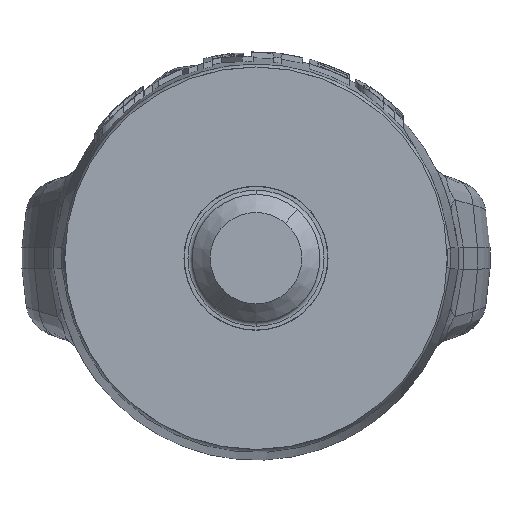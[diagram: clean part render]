
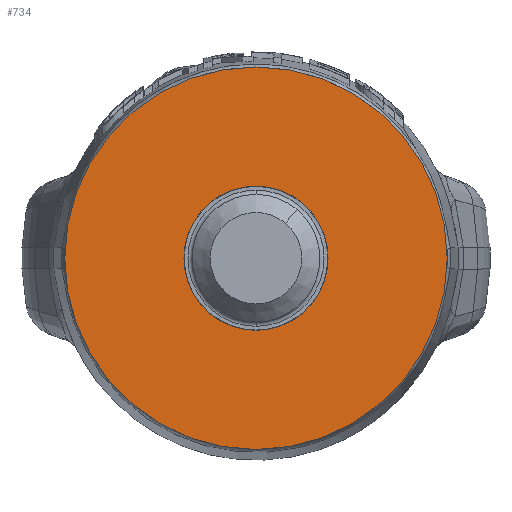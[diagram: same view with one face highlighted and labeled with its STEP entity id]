
A CAD part, front view. The second image highlights one B-rep face of the part: STEP entity #734.
In plain terms, the highlighted planar face has unit normal (0, -1, 0).
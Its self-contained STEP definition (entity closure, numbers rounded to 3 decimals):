
#734=ADVANCED_FACE('',(#1461,#1462),#1463,.F.);
#1461=FACE_OUTER_BOUND('',#7029,.T.);
#1462=FACE_BOUND('',#7030,.T.);
#1463=PLANE('',#7031);
#7029=EDGE_LOOP('',(#8860,#8861));
#7030=EDGE_LOOP('',(#8862,#8863));
#7031=AXIS2_PLACEMENT_3D('',#8864,#8865,#8866);
#8860=ORIENTED_EDGE('',*,*,#9725,.T.);
#8861=ORIENTED_EDGE('',*,*,#9715,.T.);
#8862=ORIENTED_EDGE('',*,*,#9718,.T.);
#8863=ORIENTED_EDGE('',*,*,#9723,.T.);
#8864=CARTESIAN_POINT('',(0.,-57.5,0.));
#8865=DIRECTION('',(0.0,1.0,0.0));
#8866=DIRECTION('',(1.0,0.0,-0.0));
#9715=EDGE_CURVE('',#10982,#10986,#10988,.T.);
#9718=EDGE_CURVE('',#10993,#10990,#10994,.T.);
#9723=EDGE_CURVE('',#10990,#10993,#11000,.T.);
#9725=EDGE_CURVE('',#10986,#10982,#11002,.T.);
#10982=VERTEX_POINT('',#18344);
#10986=VERTEX_POINT('',#18349);
#10988=CIRCLE('',#18352,35.959);
#10990=VERTEX_POINT('',#18354);
#10993=VERTEX_POINT('',#18358);
#10994=CIRCLE('',#18359,13.554);
#11000=CIRCLE('',#18366,13.554);
#11002=CIRCLE('',#18368,35.959);
#18344=CARTESIAN_POINT('',(-35.959,-57.5,0.));
#18349=CARTESIAN_POINT('',(35.959,-57.5,0.));
#18352=AXIS2_PLACEMENT_3D('',#19034,#19035,#19036);
#18354=CARTESIAN_POINT('',(-13.554,-57.5,0.));
#18358=CARTESIAN_POINT('',(13.554,-57.5,0.));
#18359=AXIS2_PLACEMENT_3D('',#19038,#19039,#19040);
#18366=AXIS2_PLACEMENT_3D('',#19048,#19049,#19050);
#18368=AXIS2_PLACEMENT_3D('',#19051,#19052,#19053);
#19034=CARTESIAN_POINT('',(0.0,-57.5,0.0));
#19035=DIRECTION('',(0.0,-1.0,-0.0));
#19036=DIRECTION('',(-1.0,0.0,0.));
#19038=CARTESIAN_POINT('',(0.0,-57.5,0.0));
#19039=DIRECTION('',(0.0,1.0,0.0));
#19040=DIRECTION('',(-1.0,0.0,0.));
#19048=CARTESIAN_POINT('',(0.0,-57.5,0.0));
#19049=DIRECTION('',(0.0,1.0,0.0));
#19050=DIRECTION('',(-1.0,0.0,0.));
#19051=CARTESIAN_POINT('',(0.0,-57.5,0.0));
#19052=DIRECTION('',(0.0,-1.0,-0.0));
#19053=DIRECTION('',(-1.0,0.0,0.));
